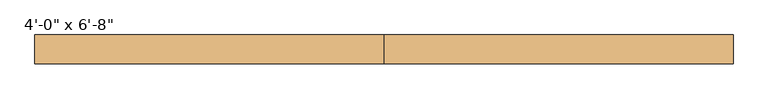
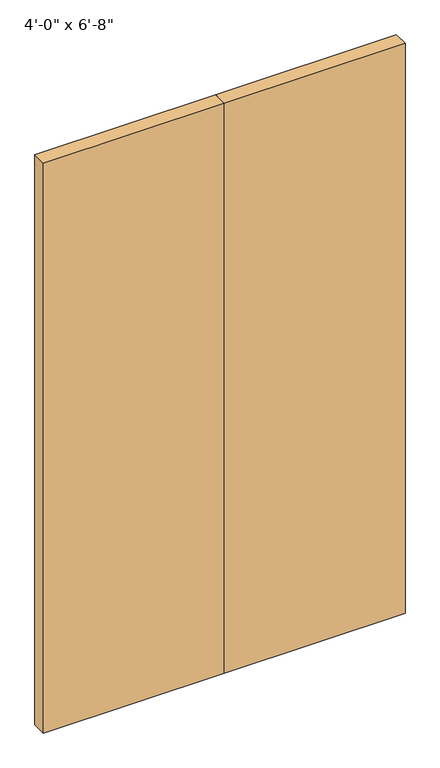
"""IFC4 building model written with IfcOpenShell, lengths in millimetres: door geometry."""

from ifc_helpers import new_model, si_unit, origin, origin_with_axes, place, context, project, spatial, polyline, outline, extrude, source, transform, mapped, element, save


def door_12ea99da(model_context):
    return source(origin(), model_context, "Body", "SweptSolid", [
        extrude(outline(polyline([(0.0, 57.15), (609.6, 57.15), (609.6, 7.15), (0.0, 7.15), (0.0, 57.15)])), origin_with_axes(), (0.0, 0.0, 1.0), 2032.0),
        extrude(outline(polyline([(-609.6, 57.15), (0.0, 57.15), (0.0, 7.15), (-609.6, 7.15), (-609.6, 57.15)])), origin_with_axes(), (0.0, 0.0, 1.0), 2032.0),
    ])


if __name__ == "__main__":
    model = new_model("IFC4")
    model_context = context("Model", 3, world=origin())
    ifc_project = project(units=[si_unit("LENGTHUNIT", "METRE", prefix="MILLI")], contexts=[model_context])
    site = spatial("IfcSite", under=ifc_project)
    building = spatial("IfcBuilding", under=site)
    placement = place(None, origin())
    door_shape = door_12ea99da(model_context)
    element("IfcDoor", 1, ObjectType="Planitar - Double Door_Flush Panel : 4'-0\" x 6'-8\"", at=placement, inside=building, context=model_context, shape_type="MappedRepresentation", body=[
        mapped(door_shape, transform((0.0, 0.0, 0.0), x_axis=(1.0, 0.0, 0.0), y_axis=(0.0, 1.0, 0.0), z_axis=(0.0, 0.0, 1.0))),
    ])
    save(model, "model.ifc")
